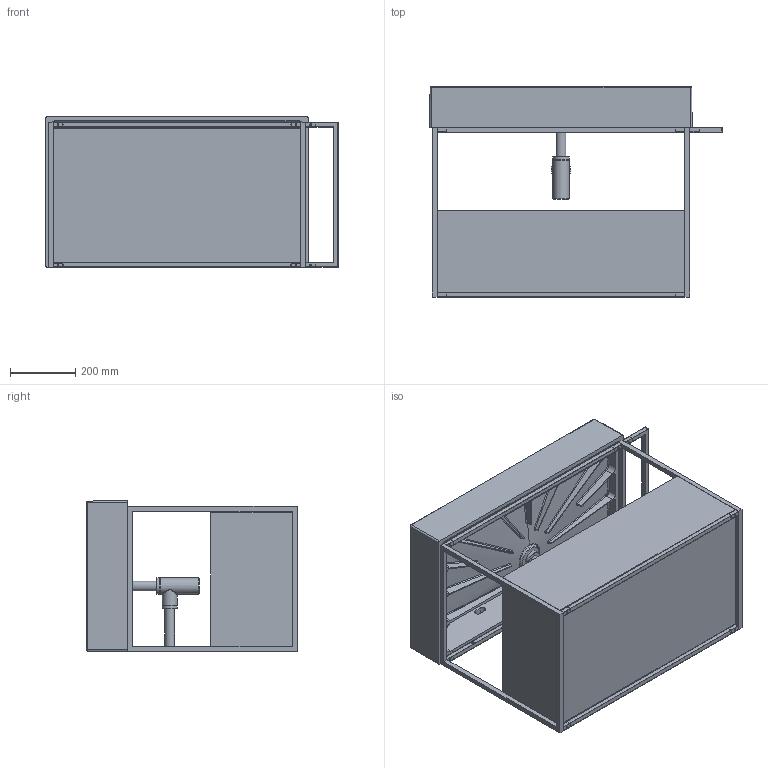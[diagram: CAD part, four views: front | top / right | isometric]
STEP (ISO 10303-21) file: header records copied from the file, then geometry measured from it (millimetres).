
FILE_DESCRIPTION (( 'STEP AP203' ), '1' );
FILE_NAME ('MSQ 81.STEP', '2023-03-31T09:15:24', ( '' ), ( '' ), 'SwSTEP 2.0', 'SolidWorks 2023', '' );
FILE_SCHEMA (( 'CONFIG_CONTROL_DESIGN' ));
Length unit declared in the file: millimetre
Products named in the file (16): CASSETTOcassetto81; AssiemeSTRUCTUREB; STRUCTURE G81; SIFONE LAVABO SOSPESO; MSQ 81; grano; STRUCTURE M; ELLP080450Q0; STRUCTURE G81 fix; CASSETTOscocca81; AssiemeSTRUCTURE81; AssiemeSTRUCTURE LATERALE; cassetto81; vite; STRUCTURE A; STRUCTURE B
Assembly tree (31 placements, depth 4):
  MSQ 81
    AssiemeSTRUCTURE81
      STRUCTURE G81 fix
      AssiemeSTRUCTURE LATERALE  x2
        STRUCTURE A
        STRUCTURE B
        vite
        grano
      STRUCTURE G81  x3
      STRUCTURE M
      AssiemeSTRUCTUREB  x2
        STRUCTURE B
        grano
        vite
    cassetto81
      CASSETTOscocca81
      CASSETTOcassetto81
    ELLP080450Q0
    SIFONE LAVABO SOSPESO
Bounding box: 897.5 x 645 x 462 mm (x, y, z)
Volume: 43785925.3 mm3; surface area: 5739904.6 mm2
Topology: 41 solids, 41 shells, 878 faces, 2130 edges, 1371 vertices
Faces by surface type: plane 558, cylinder 151, bspline 115, torus 21, sphere 19, cone 14
Full cylindrical faces by diameter (mm): 4 x2, 5 x50, 9 x10, 10 x2, 30 x2, 35 x1, 43 x1, 45 x2, 48 x1, 50 x3, 60 x1, 78 x1
Entity records: 34871 total; most frequent: CARTESIAN_POINT 23526, ORIENTED_EDGE 2002, DIRECTION 1689, EDGE_CURVE 1001, VERTEX_POINT 652, AXIS2_PLACEMENT_3D 613, EDGE_LOOP 545, FACE_OUTER_BOUND 485
